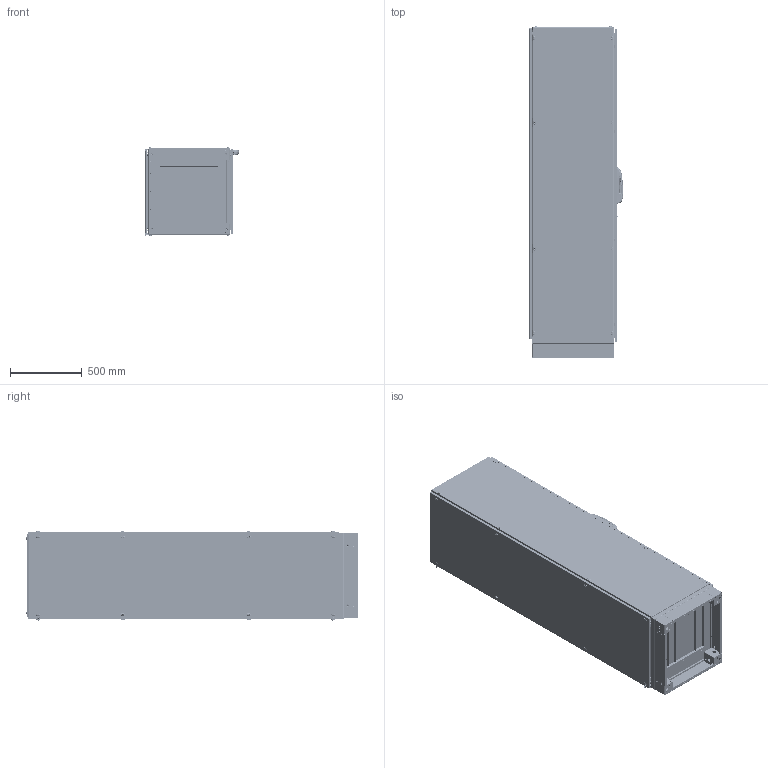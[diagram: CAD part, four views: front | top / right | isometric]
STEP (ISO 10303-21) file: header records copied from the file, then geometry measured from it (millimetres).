
FILE_DESCRIPTION (( 'STEP AP203' ), '1' );
FILE_NAME ('706.226 600x2200x600.STEP', '2020-04-04T16:07:44', ( '' ), ( '' ), 'SwSTEP 2.0', 'SolidWorks 2019', '' );
FILE_SCHEMA (( 'CONFIG_CONTROL_DESIGN' ));
Length unit declared in the file: millimetre
Products named in the file (125): M6 KAFES SOMU2015; kose rondela kabartmaSIZ 12; Montaj PlakAsi aaaaa 3mm_PP 12.0099 600x2200; Teos-Neo MP Sol Braketi; M6 HAVÞA PLASTÝK CÝVATA; kapali dikey profilkenetli_ita oluklu10-aaaaaaaaaaaa-1_2200; TEOS iskelet_600x2200x600; PB 14.0004 M6 HAVÞA PLASTÝK CÝVATA; flat head screw_am_B18.6.7M - M6 x 1.0 x 20 Type I Cross Recessed FHMS --20N; MP 14.0006 PVC SIZDIRMAZLIK CONTASI; BAZA KÖÞES_SAG; MP 18.7631 Modul; MP 18.7631 Kol-Cark; TEOS TEK KAPAK REVÝZE_600x2200; 03-TABAN SACI U1 04-2012_PP 12.0035 - 600-200; TEOS Kilit Üst Çubuk Montaj_2200H; TEOS Yeni Kapak Montaj version 2_2200; Teos-Neo MP Sað Braketi; MP 18.7631 Tekpan ASSEMBLY 27092017_mekanizmasiz; MP 14.0007 M6 PLASTÝK HAVSA; percinli taban-vidalý kapak-kose pls yok_701.660-60X60 ALT; MP 18.7631 32002136; yan arka kapak baglantý saci orta; TEOS Kilit Alt Çubuk Montaj_2200H; M8 KAFES SOMUN_m8; Mirror03-KOSE PUNT; MP 18.7631 204 handle REV04 tekpan logo; BAZA KÖÞES_SOL; 03-2012 sac kilit dil 10-2010 ORTA; M5 DÝKEY PROFÝL RONDELA; arka kapi 1,5 mm gecme askili 09-2014 R3_PP 12.0078 600x2200; TEOS-NEO MP Sag Dayama; 03-2012 sac kilit dil 10-2010 alt ust; yan Kapak 09-2014 800 der ust tek hv r3_PP 12.0071 - 2200X600; kafes somun kafes; TEOS-NEO MP Sol Dayama; TEOS Kilit Çubuk Dili; Teos-Neo MP Durdurucu; mentese orta 09-201; TEOS Kilit Alt Çubuk_2200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
Assembly tree (391 placements, depth 7):
  706.226 600x2200x600
    TEOS iskelet_600x2200x600
      kapali dikey profilkenetli_ita oluklu10-aaaaaaaaaaaa-1_2200  x4
      kapali dikey profilkenetli_ita oluklu10-aaaaaaaaaaaa-1_600  x8
      L KOSE DESTEKorj1  x8
      kose rondela kabartmaSIZ 10  x15
      kose rondela kabartmaSIZ 12
      MP 11.0140 TEOS ALUMINYUM KOSE APPROVED 16.08.2010  x8
      M5 DÝKEY PROFÝL RONDELA  x16
      percinli taban-vidalý kapak-kose pls yok_701.660-60X60 ALT
        03-taban genislik percinli 04 - 2012 100-120_PP 12.0019 - 600  x2
        03taban derinlik percinli_PP 12.0025 - 600  x2
        03-KOSE PUNT_PP 12.0027
        03-KOSE PUNT
        Mirror03-KOSE PUNT  x2
        TEOS V2 BAZA S嵞TEM廆600X600
          BAZA KÖÞES_SAG
            V2 BAZA KOSESI2015_100
            BAZA SISTEMIV2-6 baza kapaðý201550x40_TEKPAN LOGOLU
            M6 KAFES SOMU2015
              kafes somun kafes
              somu
            M6 KAFES SOMU2015
              kafes somun kafes
              somu
          V2 -2011 DT BAZA KAPAGI ON_PP 12.0045 - 600  x2
          BAZA KÖÞES_SOL
            V2 BAZA KOSESI2015_100
            BAZA SISTEMIV2-6 baza kapaðý201550x40
            M6 KAFES SOMU2015
              kafes somun kafes
              somu
            M6 KAFES SOMU2015
              kafes somun kafes
              somu
          BAZA KÖÞES_SAG
            V2 BAZA KOSESI2015_100
            BAZA SISTEMIV2-6 baza kapaðý201550x40_TEKPAN LOGOLU
            M6 KAFES SOMU2015
              kafes somun kafes
              somu
            M6 KAFES SOMU2015
              kafes somun kafes
              somu
          BAZA KÖÞES_SOL
            V2 BAZA KOSESI2015_100
            BAZA SISTEMIV2-6 baza kapaðý201550x40
            M6 KAFES SOMU2015
              kafes somun kafes
              somu
            M6 KAFES SOMU2015
              kafes somun kafes
              somu
          V3 -2011 DT BAZA KAPAGI yan_PP 12.0051 - 600  x2
          flat head screw_am_B18.6.7M - M6 x 1.0 x 20 Type I Cross Recessed FHMS --20N  x8
        03-TABAN SACI SURGU_PP 12.0030 - 600  x2
        03-TABAN SACI U1 04-2012_PP 12.0040 - 600-75
        03-TABAN SACI U1 04-2012_PP 12.0035 - 600-200
        mp aLT DAYAMA_PP 12.0093 - 600  x2
      yan arka kapak baglantý saci  x4
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Bounding box: 658.09 x 2317.1 x 623.59 mm (x, y, z)
Volume: 21581431.1 mm3; surface area: 23086672.7 mm2
Topology: 336 solids, 376 shells, 52647 faces, 143047 edges, 90850 vertices
Faces by surface type: plane 33391, cylinder 14309, bspline 2211, torus 1155, cone 972, sphere 609
Entity records: 698090 total; most frequent: CARTESIAN_POINT 293629, ORIENTED_EDGE 82230, DIRECTION 75730, EDGE_CURVE 41115, VECTOR 27322, LINE 27322, VERTEX_POINT 26350, AXIS2_PLACEMENT_3D 24204
